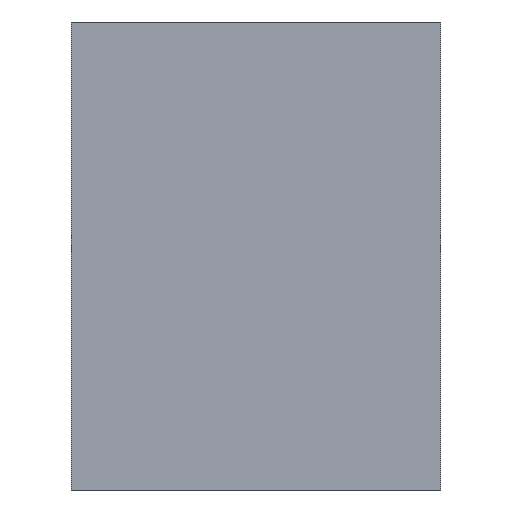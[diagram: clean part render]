
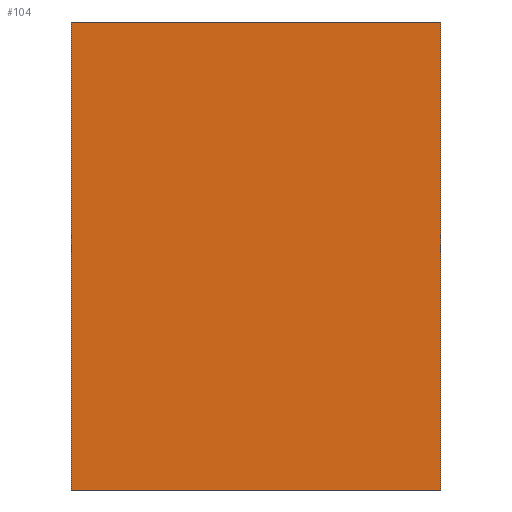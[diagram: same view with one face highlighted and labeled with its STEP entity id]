
A CAD part, left-side view. The second image highlights one B-rep face of the part: STEP entity #104.
In plain terms, the highlighted planar face has unit normal (-1, 0, 0).
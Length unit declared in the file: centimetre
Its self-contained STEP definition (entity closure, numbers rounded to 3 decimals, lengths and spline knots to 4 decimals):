
#18=FACE_OUTER_BOUND('',#24,.T.);
#24=EDGE_LOOP('',(#83,#84,#85,#86));
#29=LINE('',#161,#41);
#33=LINE('',#170,#45);
#35=LINE('',#173,#47);
#37=LINE('',#176,#49);
#41=VECTOR('',#133,1.);
#45=VECTOR('',#139,1.);
#47=VECTOR('',#143,1.);
#49=VECTOR('',#147,1.);
#53=VERTEX_POINT('',#158);
#54=VERTEX_POINT('',#160);
#57=VERTEX_POINT('',#167);
#58=VERTEX_POINT('',#169);
#61=EDGE_CURVE('',#53,#54,#29,.T.);
#65=EDGE_CURVE('',#57,#58,#33,.T.);
#67=EDGE_CURVE('',#54,#57,#35,.T.);
#69=EDGE_CURVE('',#53,#58,#37,.T.);
#83=ORIENTED_EDGE('',*,*,#69,.T.);
#84=ORIENTED_EDGE('',*,*,#65,.F.);
#85=ORIENTED_EDGE('',*,*,#67,.F.);
#86=ORIENTED_EDGE('',*,*,#61,.F.);
#98=PLANE('',#124);
#104=ADVANCED_FACE('',(#18),#98,.F.);
#124=AXIS2_PLACEMENT_3D('',#175,#145,#146);
#133=DIRECTION('',(0.,-1.,0.));
#139=DIRECTION('',(0.,1.,0.));
#143=DIRECTION('',(0.,0.,-1.));
#145=DIRECTION('center_axis',(1.,0.,0.));
#146=DIRECTION('ref_axis',(0.,0.,-1.));
#147=DIRECTION('',(0.,0.,-1.));
#158=CARTESIAN_POINT('',(-1.16,2.081,-0.35));
#160=CARTESIAN_POINT('',(-1.16,1.211,-0.35));
#161=CARTESIAN_POINT('',(-1.16,1.646,-0.35));
#167=CARTESIAN_POINT('',(-1.16,1.211,-1.4515));
#169=CARTESIAN_POINT('',(-1.16,2.081,-1.4515));
#170=CARTESIAN_POINT('',(-1.16,1.646,-1.4515));
#173=CARTESIAN_POINT('',(-1.16,1.211,-0.9008));
#175=CARTESIAN_POINT('Origin',(-1.16,1.646,-0.9008));
#176=CARTESIAN_POINT('',(-1.16,2.081,-0.9008));
